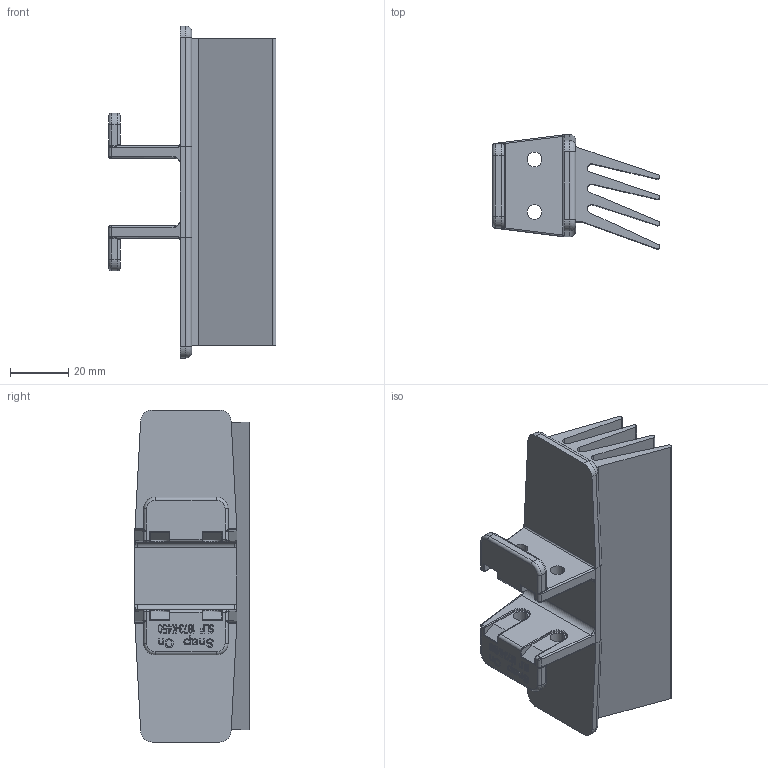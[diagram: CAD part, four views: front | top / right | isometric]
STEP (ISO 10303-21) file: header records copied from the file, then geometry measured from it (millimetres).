
FILE_DESCRIPTION((''),'2;1');
FILE_NAME('K150','2015-12-16T',('bhe'),(''),'CREO PARAMETRIC BY PTC INC, 2015290','CREO PARAMETRIC BY PTC INC, 2015290','');
FILE_SCHEMA(('CONFIG_CONTROL_DESIGN'));
Length unit declared in the file: millimetre
Products named in the file (1): K150
Bounding box: 57.78 x 39.3 x 114.3 mm (x, y, z)
Volume: 23525.4 mm3; surface area: 41096.3 mm2
Topology: 1 solids, 2 shells, 806 faces, 2221 edges, 1444 vertices
Faces by surface type: plane 645, cylinder 95, bspline 42, torus 24
Entity records: 27235 total; most frequent: CARTESIAN_POINT 6876, ORIENTED_EDGE 4442, DIRECTION 3845, EDGE_CURVE 2221, VECTOR 1927, LINE 1927, VERTEX_POINT 1444, AXIS2_PLACEMENT_3D 959
